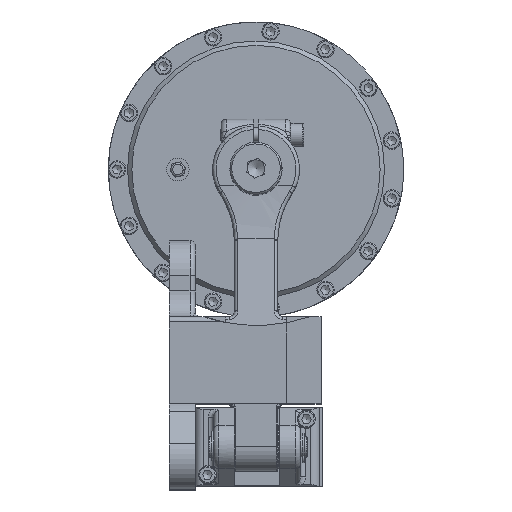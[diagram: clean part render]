
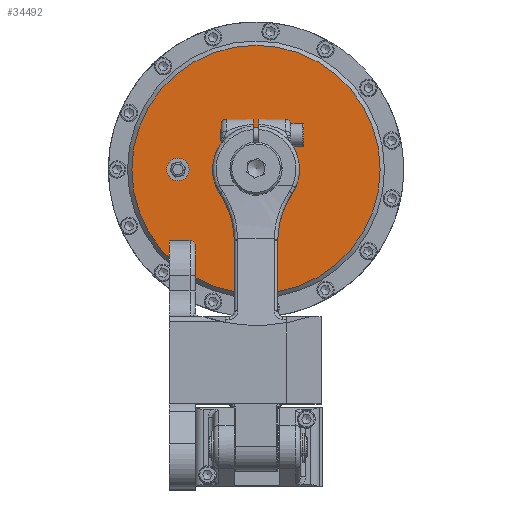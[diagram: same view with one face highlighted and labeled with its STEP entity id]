
A CAD part, top view. The second image highlights one B-rep face of the part: STEP entity #34492.
In plain terms, the highlighted planar face has unit normal (0, 0, 1).
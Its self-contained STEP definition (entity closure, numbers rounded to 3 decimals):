
#1195=FACE_BOUND('',#6639,.T.);
#1196=FACE_BOUND('',#6640,.T.);
#2748=CIRCLE('',#37146,15.);
#2749=CIRCLE('',#37147,15.);
#2758=CIRCLE('',#37158,6.5);
#2759=CIRCLE('',#37159,6.5);
#2765=CIRCLE('',#37168,71.5);
#4680=FACE_OUTER_BOUND('',#6638,.T.);
#6638=EDGE_LOOP('',(#26105));
#6639=EDGE_LOOP('',(#26106,#26107));
#6640=EDGE_LOOP('',(#26108,#26109));
#13928=VERTEX_POINT('',#71869);
#13929=VERTEX_POINT('',#71870);
#13946=VERTEX_POINT('',#71909);
#13947=VERTEX_POINT('',#71910);
#13953=VERTEX_POINT('',#71928);
#18250=EDGE_CURVE('',#13928,#13929,#2748,.T.);
#18251=EDGE_CURVE('',#13929,#13928,#2749,.T.);
#18270=EDGE_CURVE('',#13946,#13947,#2758,.T.);
#18271=EDGE_CURVE('',#13947,#13946,#2759,.T.);
#18280=EDGE_CURVE('',#13953,#13953,#2765,.T.);
#26105=ORIENTED_EDGE('',*,*,#18280,.F.);
#26106=ORIENTED_EDGE('',*,*,#18270,.T.);
#26107=ORIENTED_EDGE('',*,*,#18271,.T.);
#26108=ORIENTED_EDGE('',*,*,#18250,.T.);
#26109=ORIENTED_EDGE('',*,*,#18251,.T.);
#31178=PLANE('',#37169);
#34492=ADVANCED_FACE('',(#4680,#1195,#1196),#31178,.T.);
#37146=AXIS2_PLACEMENT_3D('',#71871,#42847,#42848);
#37147=AXIS2_PLACEMENT_3D('',#71872,#42849,#42850);
#37158=AXIS2_PLACEMENT_3D('',#71911,#42881,#42882);
#37159=AXIS2_PLACEMENT_3D('',#71912,#42883,#42884);
#37168=AXIS2_PLACEMENT_3D('',#71930,#42904,#42905);
#37169=AXIS2_PLACEMENT_3D('',#71931,#42906,#42907);
#42847=DIRECTION('center_axis',(0.,0.,
-1.));
#42848=DIRECTION('ref_axis',(1.,0.,0.));
#42849=DIRECTION('center_axis',(0.,0.,
-1.));
#42850=DIRECTION('ref_axis',(1.,0.,0.));
#42881=DIRECTION('center_axis',(0.,0.,
-1.));
#42882=DIRECTION('ref_axis',(0.,-1.,0.));
#42883=DIRECTION('center_axis',(0.,0.,
-1.));
#42884=DIRECTION('ref_axis',(0.,-1.,0.));
#42904=DIRECTION('center_axis',(0.,0.,
-1.));
#42905=DIRECTION('ref_axis',(-1.,0.,0.));
#42906=DIRECTION('center_axis',(0.,0.,
1.));
#42907=DIRECTION('ref_axis',(0.,-1.,0.));
#71869=CARTESIAN_POINT('',(65.,135.,-44.5));
#71870=CARTESIAN_POINT('',(35.,135.,-44.5));
#71871=CARTESIAN_POINT('Origin',(50.,135.,-44.5));
#71872=CARTESIAN_POINT('Origin',(50.,135.,-44.5));
#71909=CARTESIAN_POINT('',(5.,128.5,-44.5));
#71910=CARTESIAN_POINT('',(5.,141.5,-44.5));
#71911=CARTESIAN_POINT('Origin',(5.,135.,-44.5));
#71912=CARTESIAN_POINT('Origin',(5.,135.,-44.5));
#71928=CARTESIAN_POINT('',(121.5,135.,-44.5));
#71930=CARTESIAN_POINT('Origin',(50.,135.,-44.5));
#71931=CARTESIAN_POINT('Origin',(94.5,135.,-44.5));
